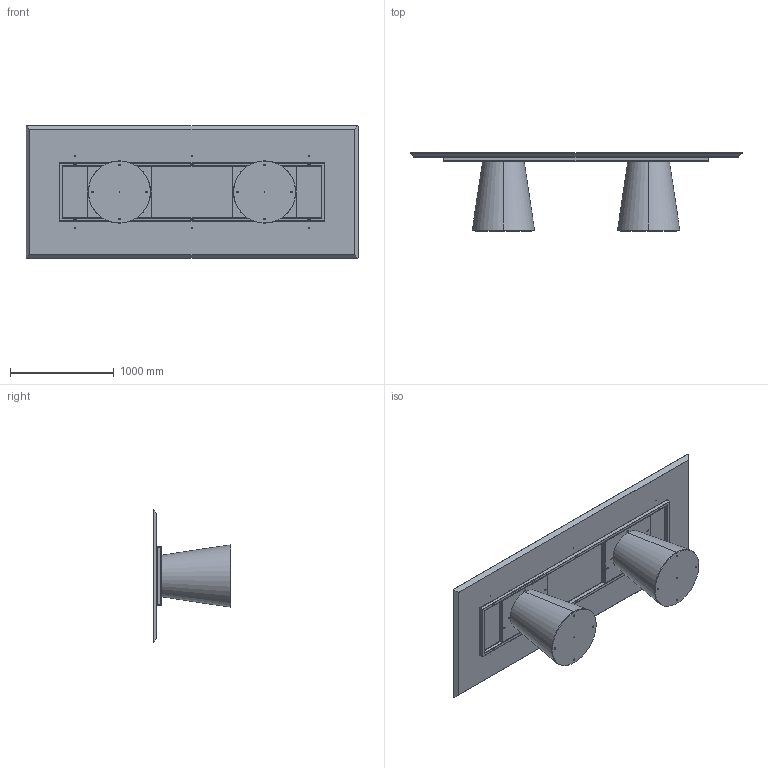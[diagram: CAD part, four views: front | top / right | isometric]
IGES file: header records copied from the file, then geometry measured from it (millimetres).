
Start section: SolidWorks IGES file using analytic representation for surfaces
Global section: file name: Y:\eforma\TECNICO\SOLIDWORKS\E-FORMA\1-TAVOLI\TEO\08 modelli 3D web\TO27W_Teo_320x128_Wood Rectangular.IGS; native system: SolidWorks 2022; preprocessor: SolidWorks 2022; author: eforma.tech; date: 240802.113804; units: millimetre
Bounding box: 3200 x 751.19 x 1280 mm (x, y, z)
Volume: 210726996.8 mm3; surface area: 17985836.1 mm2
Topology: 28 solids, 28 shells, 1104 faces, 2532 edges, 1456 vertices
Faces by surface type: revolution 610, plane 494
